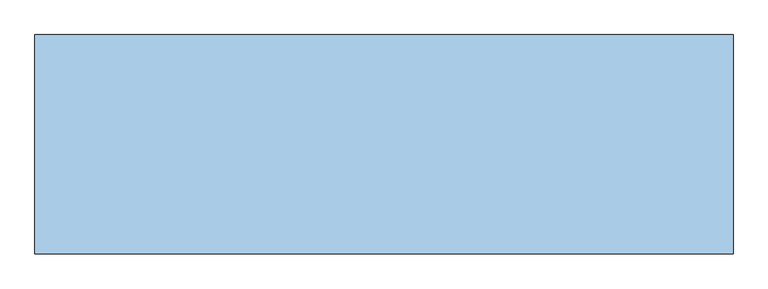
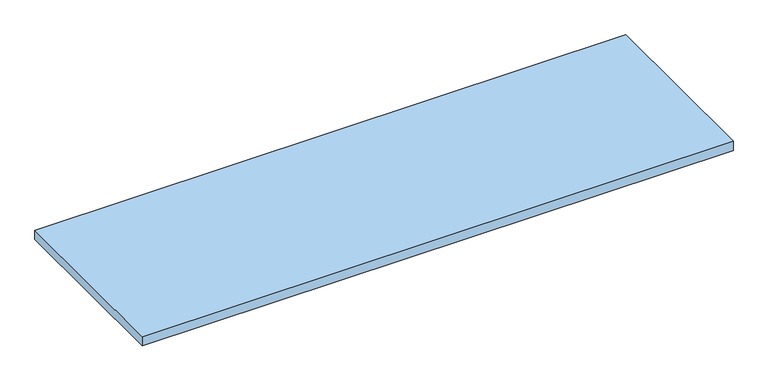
"""IFC4 building model written with IfcOpenShell, lengths in millimetres: window geometry, AC_Подоконник : ПВХ."""

import ifcopenshell
import ifcopenshell.guid

model = None  # the IFC model being written
_history = None  # IfcOwnerHistory: only IFC2X3 demands one
_inside = {}  # id of a spatial element -> (the spatial element, [elements in it])
_under = {}  # id of a project, library or spatial element -> (it, [spatial elements below it])
_declared = {}  # id of a project -> (the project, [libraries it declares])
_typed = {}  # id of a type object -> (the type object, [elements of that type])
_made_of = {}  # id of a material, layer set ... -> (it, [elements and type objects made of it])


def new_model(schema):
    """Start an empty IFC model of exactly this schema.

    Asked for "IFC4X3", IfcOpenShell would pick the latest addendum, in which some entities
    have other attributes; the version numbers below select the first issue.
    IFC2X3 requires an IfcOwnerHistory on every rooted entity: one is made here for all.
    """
    global model, _history
    if schema == "IFC4X3":
        model = ifcopenshell.file(schema_version=(4, 3, 0, 0))
    else:
        model = ifcopenshell.file(schema=schema)
    _inside.clear()
    _under.clear()
    _declared.clear()
    _typed.clear()
    _made_of.clear()
    _history = None
    if model.schema == "IFC2X3":
        org = make("IfcOrganization", Name="unknown")
        user = make(
            "IfcPersonAndOrganization",
            ThePerson=make("IfcPerson", FamilyName="unknown"),
            TheOrganization=org,
        )
        app = make(
            "IfcApplication",
            ApplicationDeveloper=org,
            Version="unknown",
            ApplicationFullName="unknown",
            ApplicationIdentifier="unknown",
        )
        _history = make(
            "IfcOwnerHistory",
            OwningUser=user,
            OwningApplication=app,
            ChangeAction="ADDED",
            CreationDate=0,
        )
    return model


def make(cls, **values):
    """One entity of the class cls with the attributes given. An attribute that is None is left unset."""
    return model.create_entity(
        cls, **{name: value for name, value in values.items() if value is not None}
    )


def rooted(cls, **values):
    """An entity with a GlobalId (a new one), such as an element, a storey or a relation."""
    return make(cls, GlobalId=ifcopenshell.guid.new(), OwnerHistory=_history, **values)


def si_unit(unit_type, name, prefix=None):
    """IfcSIUnit, for example si_unit("LENGTHUNIT", "METRE", prefix="MILLI")."""
    return make("IfcSIUnit", UnitType=unit_type, Prefix=prefix, Name=name)


def assignment(units):
    """IfcUnitAssignment: the units of a project."""
    return None if units is None else make("IfcUnitAssignment", Units=units)


def point(xyz):
    """IfcCartesianPoint."""
    return None if xyz is None else make("IfcCartesianPoint", Coordinates=xyz)


def direction(xyz):
    """IfcDirection."""
    return None if xyz is None else make("IfcDirection", DirectionRatios=xyz)


def frame(location, z_axis=None, x_axis=None):
    """IfcAxis2Placement3D, a coordinate frame: its origin and axes. An axis left out is left unset."""
    return make(
        "IfcAxis2Placement3D",
        Location=point(location),
        Axis=direction(z_axis),
        RefDirection=direction(x_axis),
    )


def origin():
    """The frame at (0, 0, 0) with its axes left unset."""
    return frame((0.0, 0.0, 0.0))


def origin_with_axes():
    """The frame at (0, 0, 0) with the z axis (0, 0, 1) and the x axis (1, 0, 0) written out."""
    return frame((0.0, 0.0, 0.0), z_axis=(0.0, 0.0, 1.0), x_axis=(1.0, 0.0, 0.0))


def place(relative_to, where):
    """IfcLocalPlacement: puts the frame where relative to a parent placement (None: the world)."""
    return make(
        "IfcLocalPlacement", PlacementRelTo=relative_to, RelativePlacement=where
    )


def context(
    kind, dimensions, precision=None, world=None, true_north=None, identifier=None
):
    """IfcGeometricRepresentationContext, for example the 3D "Model" context."""
    return make(
        "IfcGeometricRepresentationContext",
        ContextIdentifier=identifier,
        ContextType=kind,
        CoordinateSpaceDimension=dimensions,
        Precision=precision,
        WorldCoordinateSystem=world,
        TrueNorth=true_north,
    )


def project(units=None, contexts=None):
    """IfcProject with its units and contexts."""
    return rooted(
        "IfcProject",
        Name="project",
        RepresentationContexts=contexts,
        UnitsInContext=assignment(units),
    )


def spatial(cls, under=None, at=None, **own):
    """A site, building, storey or space (cls), placed at a placement, below another one or the project."""
    s = rooted(cls, ObjectPlacement=at, **own)
    if under is not None:
        _under.setdefault(under.id(), (under, []))[1].append(s)
    return s


def polyline(points):
    """IfcPolyline through the points."""
    return make("IfcPolyline", Points=[point(p) for p in points])


def outline(outer, holes=None, kind="AREA"):
    """IfcArbitraryClosedProfileDef: a profile drawn as a closed curve; with holes, ...WithVoids."""
    if holes is None:
        return make("IfcArbitraryClosedProfileDef", ProfileType=kind, OuterCurve=outer)
    return make(
        "IfcArbitraryProfileDefWithVoids",
        ProfileType=kind,
        OuterCurve=outer,
        InnerCurves=holes,
    )


def extrude(swept, where, along, depth):
    """IfcExtrudedAreaSolid: the profile swept, set in the frame where, extruded along a direction by depth."""
    return make(
        "IfcExtrudedAreaSolid",
        SweptArea=swept,
        Position=where,
        ExtrudedDirection=direction(along),
        Depth=depth,
    )


def shape(context_of_items, identifier, shape_type, items):
    """IfcShapeRepresentation: the items that make up one representation, for example the "Body"."""
    return make(
        "IfcShapeRepresentation",
        ContextOfItems=context_of_items,
        RepresentationIdentifier=identifier,
        RepresentationType=shape_type,
        Items=items,
    )


def source(mapping_origin, context_of_items, identifier, shape_type, items):
    """IfcRepresentationMap: a shape defined once, which mapped items show again and again."""
    return make(
        "IfcRepresentationMap",
        MappingOrigin=mapping_origin,
        MappedRepresentation=shape(context_of_items, identifier, shape_type, items),
    )


def transform(
    local_origin,
    x_axis=None,
    y_axis=None,
    z_axis=None,
    scale=None,
    scale2=None,
    scale3=None,
    uniform=True,
):
    """IfcCartesianTransformationOperator3D, or its non-uniform kind. x_axis, y_axis, z_axis: its Axis1, 2, 3."""
    if uniform:
        return make(
            "IfcCartesianTransformationOperator3D",
            Axis1=direction(x_axis),
            Axis2=direction(y_axis),
            LocalOrigin=point(local_origin),
            Scale=scale,
            Axis3=direction(z_axis),
        )
    return make(
        "IfcCartesianTransformationOperator3DnonUniform",
        Axis1=direction(x_axis),
        Axis2=direction(y_axis),
        LocalOrigin=point(local_origin),
        Scale=scale,
        Axis3=direction(z_axis),
        Scale2=scale2,
        Scale3=scale3,
    )


def mapped(mapping_source, mapping_target):
    """IfcMappedItem: shows the shape of a source again, moved by a transform."""
    return make(
        "IfcMappedItem", MappingSource=mapping_source, MappingTarget=mapping_target
    )


def made_of(thing, what):
    """Note that an element or type object is made of a material, layer set ...; save() writes the relation."""
    if what is not None:
        _made_of.setdefault(what.id(), (what, []))[1].append(thing)
    return thing


def element(
    cls,
    number,
    at=None,
    inside=None,
    cuts=None,
    type_object=None,
    material=None,
    context=None,
    identifier="Body",
    shape_type=None,
    held_by="IfcProductDefinitionShape",
    body=None,
    shapes=None,
    **own,
):
    """One element of the class cls, such as IfcWall. Its Tag is "e" and its number.

    at: its placement. inside: the storey or other place that contains it. cuts: it is an
    opening in that element (IfcRelVoidsElement). A single representation is given by context,
    identifier, shape_type and body (its items); several are given by shapes. held_by: the class
    of the entity that holds the representations. save() writes the other relations.
    """
    e = rooted(cls, Tag="e%d" % number, ObjectPlacement=at, **own)
    if body is not None:
        shapes = [shape(context, identifier, shape_type, body)]
    if shapes is not None:
        e.Representation = make(held_by, Representations=shapes)
    if inside is not None:
        _inside.setdefault(inside.id(), (inside, []))[1].append(e)
    if cuts is not None:
        rooted(
            "IfcRelVoidsElement", RelatingBuildingElement=cuts, RelatedOpeningElement=e
        )
    if type_object is not None:
        _typed.setdefault(type_object.id(), (type_object, []))[1].append(e)
    return made_of(e, material)


def aggregate(whole, parts):
    """IfcRelAggregates: a whole, such as a stair, and the parts it consists of."""
    return rooted("IfcRelAggregates", RelatingObject=whole, RelatedObjects=parts)


def save(model, path):
    """Write the relations noted so far, then the file.

    IfcRelAggregates (storeys below a building ...), IfcRelContainedInSpatialStructure (elements
    in a storey), IfcRelDefinesByType, IfcRelAssociatesMaterial and IfcRelDeclares: one each for
    every whole, place, type object, material and project.
    """
    for whole, parts in _under.values():
        aggregate(whole, parts)
    for where, things in _inside.values():
        rooted(
            "IfcRelContainedInSpatialStructure",
            RelatedElements=things,
            RelatingStructure=where,
        )
    for kind, things in _typed.values():
        rooted("IfcRelDefinesByType", RelatedObjects=things, RelatingType=kind)
    for what, things in _made_of.values():
        rooted("IfcRelAssociatesMaterial", RelatedObjects=things, RelatingMaterial=what)
    for by, libraries in _declared.values():
        rooted("IfcRelDeclares", RelatingContext=by, RelatedDefinitions=libraries)
    model.write(path)


def window_087112bc(model_context):
    return source(origin(), model_context, "Body", "SweptSolid", [
        extrude(outline(polyline([(605.0, 0.0), (605.0, -380.0), (-605.0, -380.0), (-605.0, 0.0), (605.0, 0.0)])), origin_with_axes(), (0.0, 0.0, 1.0), 20.0),
    ])


if __name__ == "__main__":
    model = new_model("IFC4")
    model_context = context("Model", 3, world=origin())
    ifc_project = project(units=[si_unit("LENGTHUNIT", "METRE", prefix="MILLI")], contexts=[model_context])
    site = spatial("IfcSite", under=ifc_project)
    building = spatial("IfcBuilding", under=site)
    placement = place(None, origin())
    window_shape = window_087112bc(model_context)
    element("IfcWindow", 1, ObjectType="AC_Подоконник : ПВХ", at=placement, inside=building, context=model_context, shape_type="MappedRepresentation", body=[
        mapped(window_shape, transform((0.0, 0.0, 0.0), x_axis=(1.0, 0.0, 0.0), y_axis=(0.0, 1.0, 0.0), z_axis=(0.0, 0.0, 1.0))),
    ])
    save(model, "model.ifc")
